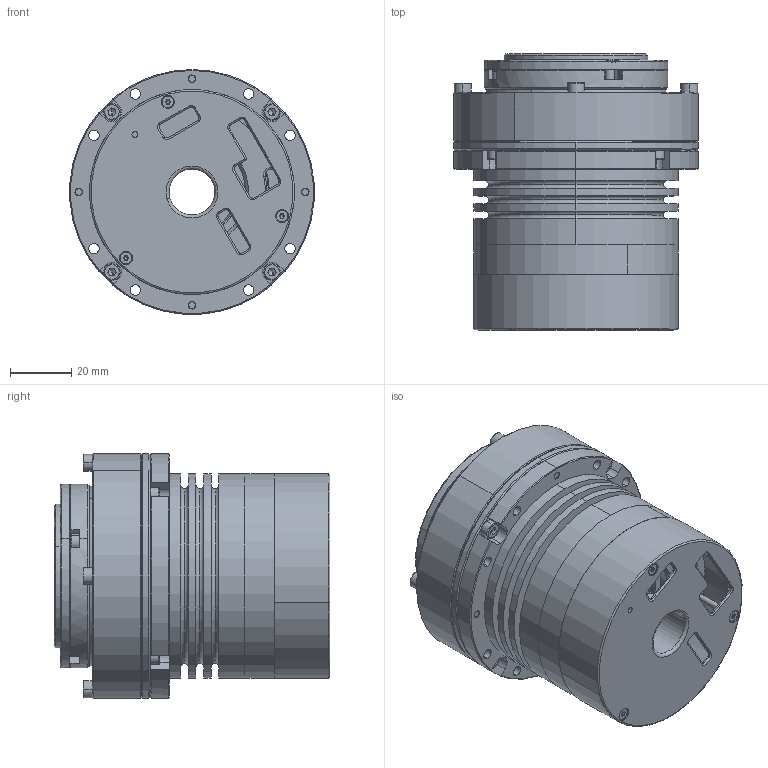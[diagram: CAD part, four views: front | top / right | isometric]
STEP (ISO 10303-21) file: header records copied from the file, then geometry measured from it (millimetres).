
FILE_DESCRIPTION (( 'STEP AP214' ), '1' );
FILE_NAME ('RH-17-100-E-N-D.STEP', '2026-07-14T08:15:07', ( '' ), ( '' ), 'SwSTEP 2.0', 'SolidWorks 2020', '' );
FILE_SCHEMA (( 'AUTOMOTIVE_DESIGN' ));
Length unit declared in the file: millimetre
Products named in the file (10): GB╱T 2673.1-2018[内六角花形沉头螺钉M2-M4M3×10]_M3×10; GB╱T 70.1-2008[内六角圆柱头螺钉M3×25]_M3×25; 8MT.013.005-傷裔 C; GB╱T 2673.1-2018[内六角花形沉头螺钉M2-M4M2×20]_M2×20; RH-17-100-E-N-D; WHS-17-XX-I_Default<偌樓馱>; 8MT.034.002-儂釱 A1; 8MT.013.050-减速机密封盖 A1_Default<按加工>; 8MT.013.060-驱动器盖 A1; 8MT.215.017（RH-17 细圆柱头螺钉M2.5x8）_M2.5x8  10.9级黑
Assembly tree (15 placements, depth 2):
  RH-17-100-E-N-D
    8MT.034.002-儂釱 A1
    8MT.013.060-驱动器盖 A1
    8MT.013.005-傷裔 C
    8MT.013.050-减速机密封盖 A1_Default<按加工>
    8MT.215.017（RH-17 细圆柱头螺钉M2.5x8）_M2.5x8  10.9级黑
    WHS-17-XX-I_Default<偌樓馱>
    GB╱T 70.1-2008[内六角圆柱头螺钉M3×25]_M3×25  x4
    GB╱T 2673.1-2018[内六角花形沉头螺钉M2-M4M3×10]_M3×10  x2
    GB╱T 2673.1-2018[内六角花形沉头螺钉M2-M4M2×20]_M2×20  x3
Bounding box: 80 x 90.2 x 80 mm (x, y, z)
Volume: 169594.4 mm3; surface area: 119850.6 mm2
Topology: 32 solids, 32 shells, 1486 faces, 3650 edges, 2240 vertices
Faces by surface type: cylinder 724, plane 342, cone 322, torus 82, bspline 16
Entity records: 49455 total; most frequent: DIRECTION 7462, CARTESIAN_POINT 7385, ORIENTED_EDGE 6414, EDGE_CURVE 3207, AXIS2_PLACEMENT_3D 3050, VERTEX_POINT 2023, CIRCLE 1715, EDGE_LOOP 1672
